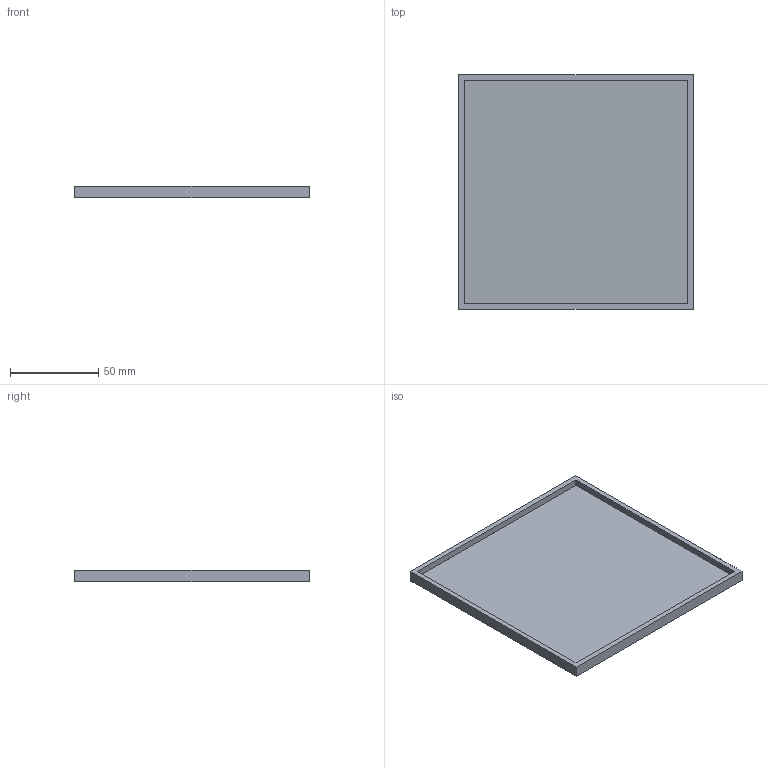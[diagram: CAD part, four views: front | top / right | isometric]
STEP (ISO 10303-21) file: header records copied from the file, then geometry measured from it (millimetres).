
FILE_DESCRIPTION(/* description */ (''),/* implementation_level */ '2;1');
FILE_NAME(/* name */ 'Mold frames 2',/* time_stamp */ '2025-12-23T14:25:33-05:00',/* author */ (''),/* organization */ (''),/* preprocessor_version */ 'ST-DEVELOPER v19.2',/* originating_system */ 'Rhino 8.14',/* authorisation */ '');
FILE_SCHEMA (('CONFIG_CONTROL_DESIGN'));
Length unit declared in the file: inch
Products named in the file (1): Document
Bounding box: 133.35 x 133.35 x 6.35 mm (x, y, z)
Volume: 51416.5 mm3; surface area: 40887.8 mm2
Topology: 1 solids, 1 shells, 20 faces, 45 edges, 28 vertices
Faces by surface type: plane 20
Entity records: 564 total; most frequent: CARTESIAN_POINT 140, ORIENTED_EDGE 90, EDGE_CURVE 45, B_SPLINE_CURVE_WITH_KNOTS 45, VERTEX_POINT 28, DIRECTION 24, AXIS2_PLACEMENT_3D 22, EDGE_LOOP 21
